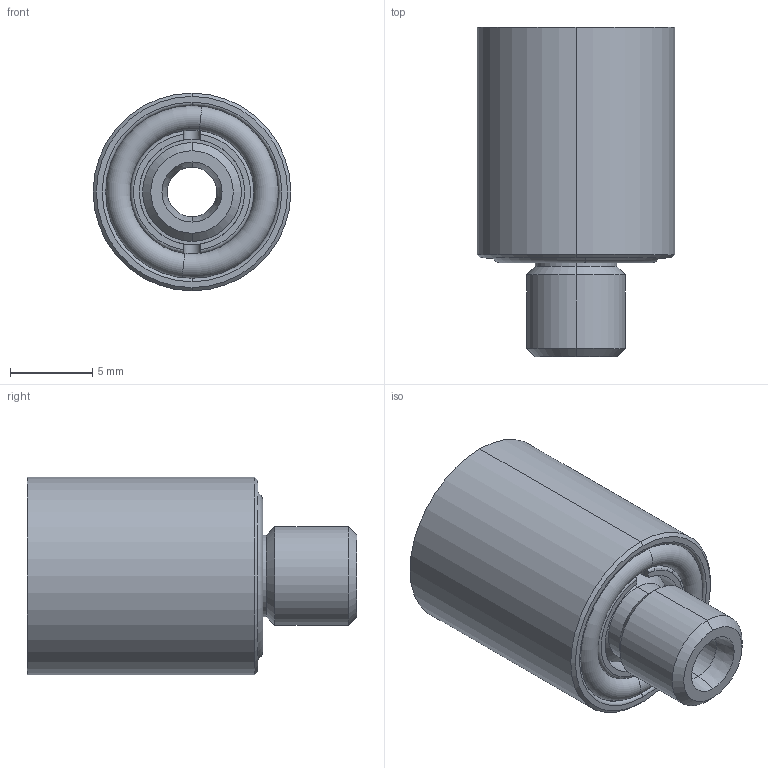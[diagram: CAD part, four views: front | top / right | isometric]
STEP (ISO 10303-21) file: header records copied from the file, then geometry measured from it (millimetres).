
FILE_DESCRIPTION (( 'STEP AP214' ), '1' );
FILE_NAME ('SA120314.STEP', '2013-06-27T09:38:08', ( '' ), ( '' ), 'SwSTEP 2.0', 'SolidWorks 2011', '' );
FILE_SCHEMA (( 'AUTOMOTIVE_DESIGN' ));
Length unit declared in the file: millimetre
Products named in the file (5): JT7.5x1.5; tapa SA12; inserto SA120314; SA120314; 8SA120414_acabado
Assembly tree (4 placements, depth 2):
  SA120314
    inserto SA120314
    8SA120414_acabado
    tapa SA12
    JT7.5x1.5
Bounding box: 12 x 20 x 12 mm (x, y, z)
Volume: 1502.8 mm3; surface area: 2004.3 mm2
Topology: 4 solids, 4 shells, 90 faces, 202 edges, 122 vertices
Faces by surface type: cylinder 30, cone 24, plane 22, torus 14
Entity records: 2914 total; most frequent: CARTESIAN_POINT 641, DIRECTION 462, ORIENTED_EDGE 404, EDGE_CURVE 202, AXIS2_PLACEMENT_3D 195, VERTEX_POINT 122, EDGE_LOOP 100, CIRCLE 98
